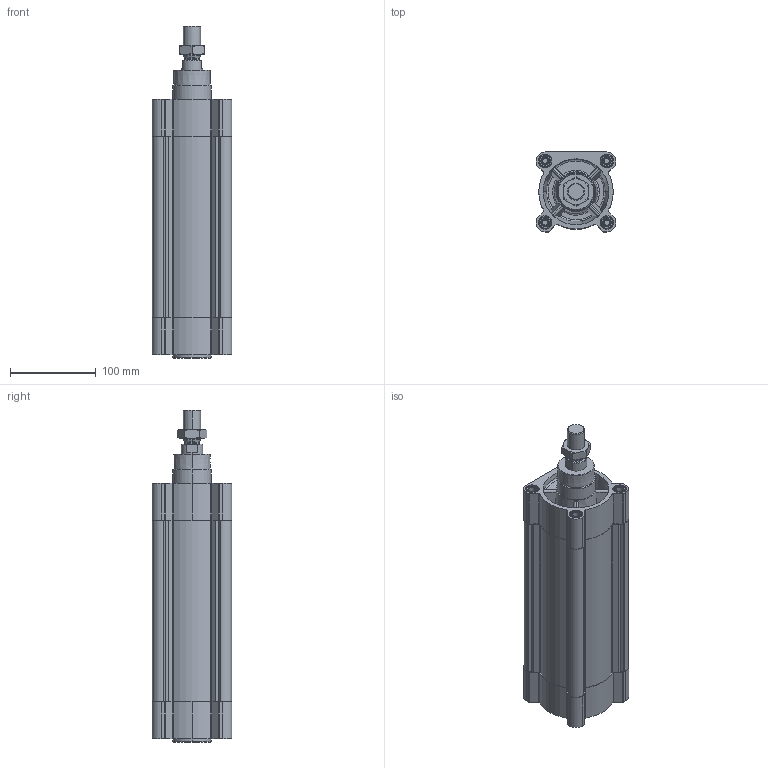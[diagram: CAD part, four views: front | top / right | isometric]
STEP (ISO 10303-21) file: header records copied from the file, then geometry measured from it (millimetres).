
FILE_DESCRIPTION (( 'STEP AP203' ), '1' );
FILE_NAME ('CPME80-170.STEP', '2023-03-30T13:27:57', ( '' ), ( '' ), 'SwSTEP 2.0', 'SolidWorks 2019', '' );
FILE_SCHEMA (( 'CONFIG_CONTROL_DESIGN' ));
Length unit declared in the file: millimetre
Products named in the file (1): CPME80-170
Bounding box: 93 x 93 x 387.6 mm (x, y, z)
Volume: 1355457.9 mm3; surface area: 306816.7 mm2
Topology: 3 solids, 3 shells, 533 faces, 1359 edges, 870 vertices
Faces by surface type: plane 207, cylinder 200, cone 98, torus 28
Entity records: 18683 total; most frequent: CARTESIAN_POINT 5639, DIRECTION 2751, ORIENTED_EDGE 2718, EDGE_CURVE 1359, AXIS2_PLACEMENT_3D 1049, VERTEX_POINT 870, LINE 653, VECTOR 653
